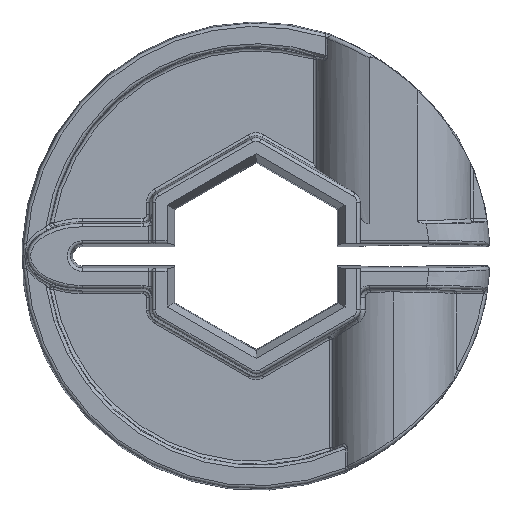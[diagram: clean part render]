
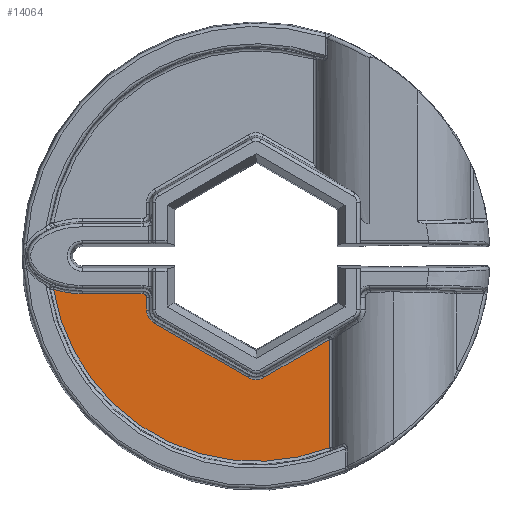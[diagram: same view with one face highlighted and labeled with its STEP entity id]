
A CAD part, top view. The second image highlights one B-rep face of the part: STEP entity #14064.
In plain terms, the highlighted planar face has unit normal (0, 0, 1).
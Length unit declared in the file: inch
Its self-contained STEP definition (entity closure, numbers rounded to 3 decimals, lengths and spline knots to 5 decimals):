
#26 = AXIS2_PLACEMENT_3D ( 'NONE', #10109, #11271, #11561 ) ;
#195 = DIRECTION ( 'NONE',  ( 0., -1., 0. ) ) ;
#201 = VECTOR ( 'NONE', #195, 39.37008 ) ;
#204 = EDGE_CURVE ( 'NONE', #10951, #9722, #7547, .T. ) ;
#241 = ORIENTED_EDGE ( 'NONE', *, *, #8640, .F. ) ;
#582 = AXIS2_PLACEMENT_3D ( 'NONE', #5858, #11463, #9127 ) ;
#681 = AXIS2_PLACEMENT_3D ( 'NONE', #6353, #2860, #6130 ) ;
#780 = CARTESIAN_POINT ( 'NONE',  ( -0.34941, -0.1164, 0.03937 ) ) ;
#1272 = CARTESIAN_POINT ( 'NONE',  ( -0.537, -0.1164, 0.03937 ) ) ;
#1279 = ORIENTED_EDGE ( 'NONE', *, *, #204, .F. ) ;
#1734 = ORIENTED_EDGE ( 'NONE', *, *, #9917, .F. ) ;
#1791 = ORIENTED_EDGE ( 'NONE', *, *, #13438, .F. ) ;
#1809 = VERTEX_POINT ( 'NONE', #13687 ) ;
#2092 = CARTESIAN_POINT ( 'NONE',  ( 0.02375, -0.37527, 0.03937 ) ) ;
#2280 = CARTESIAN_POINT ( 'NONE',  ( -0.3141, -0.20764, 0.03937 ) ) ;
#2360 = LINE ( 'NONE', #2280, #12695 ) ;
#2639 = DIRECTION ( 'NONE',  ( 0., 0., 1. ) ) ;
#2768 = AXIS2_PLACEMENT_3D ( 'NONE', #8220, #2639, #4815 ) ;
#2860 = DIRECTION ( 'NONE',  ( 0., 0., 1. ) ) ;
#2995 = CARTESIAN_POINT ( 'NONE',  ( -0.62611, -0.10218, 0.03937 ) ) ;
#3057 = B_SPLINE_CURVE_WITH_KNOTS ( 'NONE', 3,
 ( #5883, #5600, #5669, #3634 ),
 .UNSPECIFIED., .F., .F.,
 ( 4, 4 ),
 ( 0., 0.00229 ),
 .UNSPECIFIED. ) ;
#3533 = VECTOR ( 'NONE', #3982, 39.37008 ) ;
#3634 = CARTESIAN_POINT ( 'NONE',  ( -0.62611, -0.10218, 0.03937 ) ) ;
#3813 = ORIENTED_EDGE ( 'NONE', *, *, #12640, .T. ) ;
#3982 = DIRECTION ( 'NONE',  ( 0., -1., 0. ) ) ;
#4210 = VERTEX_POINT ( 'NONE', #4722 ) ;
#4456 = VERTEX_POINT ( 'NONE', #4684 ) ;
#4484 = EDGE_CURVE ( 'NONE', #4456, #10951, #2360, .T. ) ;
#4661 = VECTOR ( 'NONE', #7467, 39.37008 ) ;
#4684 = CARTESIAN_POINT ( 'NONE',  ( -0.3141, -0.20764, 0.03937 ) ) ;
#4722 = CARTESIAN_POINT ( 'NONE',  ( -0.537, -0.1164, 0.03937 ) ) ;
#4771 = VERTEX_POINT ( 'NONE', #6153 ) ;
#4815 = DIRECTION ( 'NONE',  ( 1., 0., 0. ) ) ;
#4891 = ORIENTED_EDGE ( 'NONE', *, *, #7032, .F. ) ;
#5508 = CARTESIAN_POINT ( 'NONE',  ( 0.22752, -0.24212, 0.03937 ) ) ;
#5513 = ORIENTED_EDGE ( 'NONE', *, *, #6421, .T. ) ;
#5600 = CARTESIAN_POINT ( 'NONE',  ( -0.56746, -0.1164, 0.03937 ) ) ;
#5645 = EDGE_CURVE ( 'NONE', #1809, #10697, #12193, .T. ) ;
#5669 = CARTESIAN_POINT ( 'NONE',  ( -0.59723, -0.11206, 0.03937 ) ) ;
#5770 = CARTESIAN_POINT ( 'NONE',  ( -0.33785, -0.12795, 0.03937 ) ) ;
#5858 = CARTESIAN_POINT ( 'NONE',  ( 0., -0.33414, 0.03937 ) ) ;
#5883 = CARTESIAN_POINT ( 'NONE',  ( -0.537, -0.1164, 0.03937 ) ) ;
#6130 = DIRECTION ( 'NONE',  ( 1., 0., 0. ) ) ;
#6153 = CARTESIAN_POINT ( 'NONE',  ( -0.33785, -0.1665, 0.03937 ) ) ;
#6293 = CARTESIAN_POINT ( 'NONE',  ( 0.22752, -0.59219, 0.03937 ) ) ;
#6353 = CARTESIAN_POINT ( 'NONE',  ( -0.34941, -0.12795, 0.03937 ) ) ;
#6421 = EDGE_CURVE ( 'NONE', #4210, #14318, #3057, .T. ) ;
#6565 = ORIENTED_EDGE ( 'NONE', *, *, #4484, .F. ) ;
#6719 = DIRECTION ( 'NONE',  ( 0.866, -0.5, 0. ) ) ;
#6804 = LINE ( 'NONE', #1272, #10444 ) ;
#6906 = CARTESIAN_POINT ( 'NONE',  ( -0.33785, -0.12795, 0.03937 ) ) ;
#7032 = EDGE_CURVE ( 'NONE', #4210, #10047, #6804, .T. ) ;
#7467 = DIRECTION ( 'NONE',  ( 0.866, 0.5, 0. ) ) ;
#7547 = CIRCLE ( 'NONE', #582, 0.0475 ) ;
#8085 = DIRECTION ( 'NONE',  ( 0., 0., 1. ) ) ;
#8141 = AXIS2_PLACEMENT_3D ( 'NONE', #9179, #8085, #11451 ) ;
#8153 = CIRCLE ( 'NONE', #26, 0.0475 ) ;
#8220 = CARTESIAN_POINT ( 'NONE',  ( 0., 0., 0.03937 ) ) ;
#8640 = EDGE_CURVE ( 'NONE', #4771, #4456, #8153, .T. ) ;
#8873 = CARTESIAN_POINT ( 'NONE',  ( 0.02375, -0.37527, 0.03937 ) ) ;
#9048 = DIRECTION ( 'NONE',  ( 1., 0., 0. ) ) ;
#9127 = DIRECTION ( 'NONE',  ( 1., 0., 0. ) ) ;
#9179 = CARTESIAN_POINT ( 'NONE',  ( -0.0003, 0., 0.03937 ) ) ;
#9513 = CIRCLE ( 'NONE', #681, 0.01156 ) ;
#9722 = VERTEX_POINT ( 'NONE', #8873 ) ;
#9917 = EDGE_CURVE ( 'NONE', #10532, #4771, #12772, .T. ) ;
#10047 = VERTEX_POINT ( 'NONE', #780 ) ;
#10109 = CARTESIAN_POINT ( 'NONE',  ( -0.29035, -0.1665, 0.03937 ) ) ;
#10286 = PLANE ( 'NONE',  #8141 ) ;
#10444 = VECTOR ( 'NONE', #9048, 39.37008 ) ;
#10532 = VERTEX_POINT ( 'NONE', #5770 ) ;
#10658 = CIRCLE ( 'NONE', #2768, 0.63439 ) ;
#10697 = VERTEX_POINT ( 'NONE', #6293 ) ;
#10819 = ORIENTED_EDGE ( 'NONE', *, *, #5645, .F. ) ;
#10951 = VERTEX_POINT ( 'NONE', #11575 ) ;
#11271 = DIRECTION ( 'NONE',  ( 0., 0., 1. ) ) ;
#11451 = DIRECTION ( 'NONE',  ( 1., 0., 0. ) ) ;
#11463 = DIRECTION ( 'NONE',  ( 0., 0., 1. ) ) ;
#11540 = EDGE_LOOP ( 'NONE', ( #1279, #6565, #241, #1734, #3813, #4891, #5513, #12490, #10819, #1791 ) ) ;
#11561 = DIRECTION ( 'NONE',  ( 1., 0., 0. ) ) ;
#11575 = CARTESIAN_POINT ( 'NONE',  ( -0.02375, -0.37527, 0.03937 ) ) ;
#11615 = EDGE_CURVE ( 'NONE', #14318, #10697, #10658, .T. ) ;
#12193 = LINE ( 'NONE', #5508, #201 ) ;
#12388 = FACE_OUTER_BOUND ( 'NONE', #11540, .T. ) ;
#12490 = ORIENTED_EDGE ( 'NONE', *, *, #11615, .T. ) ;
#12640 = EDGE_CURVE ( 'NONE', #10532, #10047, #9513, .T. ) ;
#12695 = VECTOR ( 'NONE', #6719, 39.37008 ) ;
#12772 = LINE ( 'NONE', #6906, #3533 ) ;
#13074 = LINE ( 'NONE', #2092, #4661 ) ;
#13438 = EDGE_CURVE ( 'NONE', #9722, #1809, #13074, .T. ) ;
#13687 = CARTESIAN_POINT ( 'NONE',  ( 0.22752, -0.25763, 0.03937 ) ) ;
#14064 = ADVANCED_FACE ( 'NONE', ( #12388 ), #10286, .T. ) ;
#14318 = VERTEX_POINT ( 'NONE', #2995 ) ;
